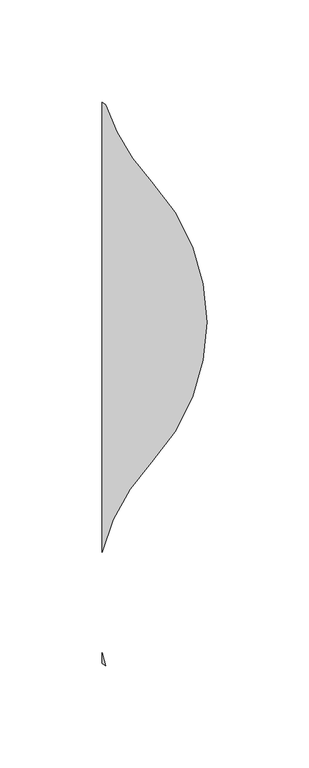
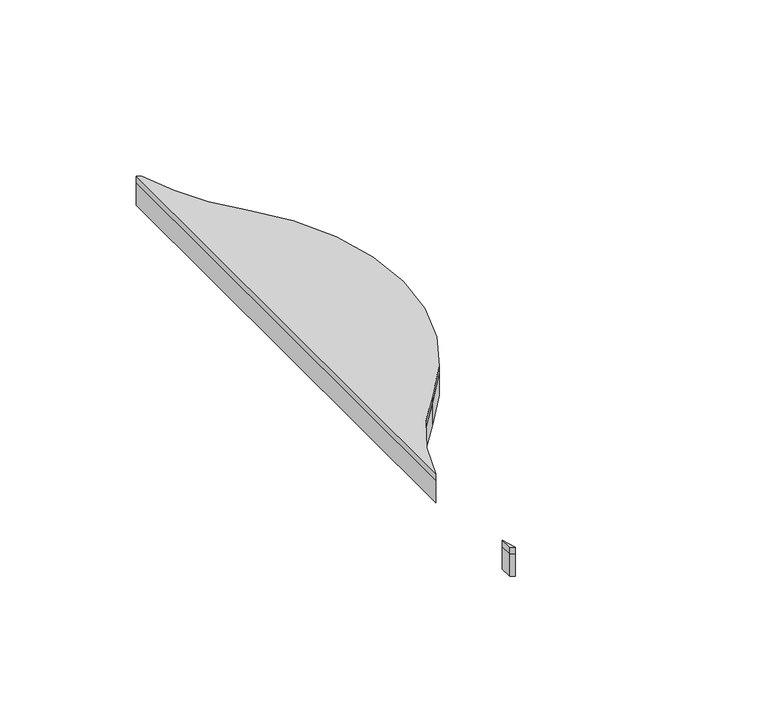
"""IFC4 building model written with IfcOpenShell, lengths in millimetres: proxy geometry, FilzFelt_Fish_Block : Fish Block."""

from ifc_helpers import new_model, si_unit, frame, origin, place, context, project, spatial, polyline, circle_curve, source, transform, mapped, element, save
from ifc_brep_helpers import plane_surface, cylinder_surface, revolved_surface, advanced_brep


def specialty_equipment_dfd8184e(model_context):
    return source(origin(), model_context, "Body", "AdvancedBrep", [
        advanced_brep(
        [(53.5486457, 68.6120133, 10.0210937), (53.5486457, -68.6120133, 10.0210937), (29.4379865, -112.6669015, 10.0210937), (29.4379865, 107.4970534, 10.0210937), (31.2619065, 106.3338576, 10.0210937), (53.5486457, 68.6120133, 12.9976563), (31.2619065, 106.3338576, 12.9976563), (29.4379865, 107.4970534, 12.9976563), (29.4379865, -112.6669015, 12.9976563), (53.5486457, -68.6120133, 12.9976563), (80.7142226, 0.0, 12.9976563)],
        [
            (0, 1, circle_curve(frame((-19.5151403, 0.0, 10.0210937), z_axis=(0.0, 0.0, -1.0), x_axis=(-1.0, 0.0, 0.0)), 100.2293629)),
            (1, 2, circle_curve(frame((126.6124317, -137.2240266, 10.0210937), z_axis=(0.0, 0.0, 1.0), x_axis=(-1.0, 0.0, 0.0)), 100.2293629)),
            (2, 3),
            (3, 4, circle_curve(frame((57.9263497, 150.1559416, 10.0210937), z_axis=(0.0, 0.0, 1.0), x_axis=(-1.0, 0.0, 0.0)), 51.2968574)),
            (4, 0, circle_curve(frame((126.6124317, 137.2240266, 10.0210937), z_axis=(0.0, 0.0, 1.0), x_axis=(-1.0, 0.0, 0.0)), 100.2293629)),
            (5, 6, circle_curve(frame((126.6124317, 137.2240266, 12.9976563), z_axis=(0.0, 0.0, -1.0), x_axis=(-1.0, 0.0, 0.0)), 100.2293629)),
            (6, 7, circle_curve(frame((57.9263497, 150.1559416, 12.9976563), z_axis=(0.0, 0.0, -1.0), x_axis=(-1.0, 0.0, 0.0)), 51.2968574)),
            (7, 8),
            (8, 9, circle_curve(frame((126.6124317, -137.2240266, 12.9976563), z_axis=(0.0, 0.0, -1.0), x_axis=(-1.0, 0.0, 0.0)), 100.2293629)),
            (9, 10, circle_curve(frame((-19.5151403, 0.0, 12.9976563), z_axis=(0.0, 0.0, 1.0), x_axis=(-1.0, 0.0, 0.0)), 100.2293629)),
            (10, 5, circle_curve(frame((-19.5151403, 0.0, 12.9976563), z_axis=(0.0, 0.0, 1.0), x_axis=(-1.0, 0.0, 0.0)), 100.2293629)),
            (0, 5),
            (9, 1),
            (8, 2),
            (6, 4),
            (3, 7),
        ],
        [
            plane_surface(frame((0.0, 0.0, 10.0210937), z_axis=(0.0, 0.0, -1.0), x_axis=(0.0, -1.0, 0.0))),
            plane_surface(frame((0.0, 0.0, 12.9976563), z_axis=(0.0, 0.0, 1.0), x_axis=(0.0, -1.0, 0.0))),
            cylinder_surface(frame((-19.5151403, 0.0, 10.0210937), z_axis=(0.0, 0.0, -1.0), x_axis=(-1.0, 0.0, 0.0)), 100.2293629),
            revolved_surface(polyline([(26.383068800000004, -137.2240266, 12.9976563), (26.383068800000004, -137.2240266, 10.0210937)]), (126.6124317, -137.2240266, 10.0210937), (0.0, 0.0, 1.0)),
            revolved_surface(polyline([(6.629492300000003, 150.1559416, 12.9976563), (6.629492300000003, 150.1559416, 10.0210937)]), (57.9263497, 150.1559416, 10.0210937), (0.0, 0.0, 1.0)),
            revolved_surface(polyline([(26.383068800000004, 137.2240266, 12.9976563), (26.383068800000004, 137.2240266, 10.0210937)]), (126.6124317, 137.2240266, 10.0210937), (0.0, 0.0, 1.0)),
            plane_surface(frame((29.4379865, 168.3338795, 12.9976562), z_axis=(-1.0, 0.0, 0.0), x_axis=(0.0, -1.0, 0.0))),
        ],
        [
            (0, [[1, 2, 3, 4, 5]]),
            (1, [[6, 7, 8, 9, 10, 11]]),
            (2, [[-1, 12, -11, -10, 13]]),
            (3, [[-13, -9, 14, -2]]),
            (4, [[15, -4, 16, -7]]),
            (5, [[-5, -15, -6, -12]]),
            (6, [[-3, -14, -8, -16]]),
        ],
    ),
        advanced_brep(
        [(29.4379865, -161.7811517, 10.0210937), (31.2619065, -168.1141956, 10.0210937), (29.4379865, -166.9509997, 10.0210937), (29.4379865, -166.9509997, 12.9976563), (31.2619065, -168.1141956, 12.9976563), (29.4379865, -161.7811517, 12.9976563)],
        [
            (0, 1, circle_curve(frame((126.6124317, -137.2240266, 10.0210937), z_axis=(0.0, 0.0, 1.0), x_axis=(-1.0, 0.0, 0.0)), 100.2293629)),
            (1, 2, circle_curve(frame((57.9263497, -124.2921115, 10.0210937), z_axis=(0.0, 0.0, -1.0), x_axis=(-1.0, 0.0, 0.0)), 51.2968574)),
            (2, 0),
            (3, 4, circle_curve(frame((57.9263497, -124.2921115, 12.9976563), z_axis=(0.0, 0.0, 1.0), x_axis=(-1.0, 0.0, 0.0)), 51.2968574)),
            (4, 5, circle_curve(frame((126.6124317, -137.2240266, 12.9976563), z_axis=(0.0, 0.0, -1.0), x_axis=(-1.0, 0.0, 0.0)), 100.2293629)),
            (5, 3),
            (4, 1),
            (0, 5),
            (3, 2),
        ],
        [
            plane_surface(frame((0.0, 0.0, 10.0210937), z_axis=(0.0, 0.0, -1.0), x_axis=(0.0, -1.0, 0.0))),
            plane_surface(frame((0.0, 0.0, 12.9976563), z_axis=(0.0, 0.0, 1.0), x_axis=(0.0, -1.0, 0.0))),
            revolved_surface(polyline([(26.383068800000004, -137.2240266, 12.9976563), (26.383068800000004, -137.2240266, 10.0210937)]), (126.6124317, -137.2240266, 10.0210937), (0.0, 0.0, 1.0)),
            cylinder_surface(frame((57.9263497, -124.2921115, 10.0210937), z_axis=(0.0, 0.0, -1.0), x_axis=(-1.0, 0.0, 0.0)), 51.2968574),
            plane_surface(frame((29.4379865, 168.3338795, 12.9976562), z_axis=(-1.0, 0.0, 0.0), x_axis=(0.0, -1.0, 0.0))),
        ],
        [
            (0, [[1, 2, 3]]),
            (1, [[4, 5, 6]]),
            (2, [[7, -1, 8, -5]]),
            (3, [[-7, -4, 9, -2]]),
            (4, [[-3, -9, -6, -8]]),
        ],
    ),
        advanced_brep(
        [(31.2619065, 106.3338576, 0.0), (53.5486457, 68.6120133, 0.0), (80.7142226, 0.0, 0.0), (53.5486457, -68.6120133, 0.0), (29.4379865, -112.6669015, 0.0), (29.4379865, 107.4970534, 0.0), (53.5486457, -68.6120133, 10.0210937), (53.5486457, 68.6120133, 10.0210937), (31.2619065, 106.3338576, 10.0210937), (29.4379865, 107.4970534, 10.0210937), (29.4379865, -112.6669015, 10.0210937)],
        [
            (0, 1, circle_curve(frame((126.6124317, 137.2240266, 0.0), z_axis=(0.0, 0.0, 1.0), x_axis=(-1.0, 0.0, 0.0)), 100.2293629)),
            (1, 2, circle_curve(frame((-19.5151403, 0.0, 0.0), z_axis=(0.0, 0.0, -1.0), x_axis=(-1.0, 0.0, 0.0)), 100.2293629)),
            (2, 3, circle_curve(frame((-19.5151403, 0.0, 0.0), z_axis=(0.0, 0.0, -1.0), x_axis=(-1.0, 0.0, 0.0)), 100.2293629)),
            (3, 4, circle_curve(frame((126.6124317, -137.2240266, 0.0), z_axis=(0.0, 0.0, 1.0), x_axis=(-1.0, 0.0, 0.0)), 100.2293629)),
            (4, 5),
            (5, 0, circle_curve(frame((57.9263497, 150.1559416, 0.0), z_axis=(0.0, 0.0, 1.0), x_axis=(-1.0, 0.0, 0.0)), 51.2968574)),
            (6, 7, circle_curve(frame((-19.5151403, 0.0, 10.0210937), z_axis=(0.0, 0.0, 1.0), x_axis=(-1.0, 0.0, 0.0)), 100.2293629)),
            (7, 8, circle_curve(frame((126.6124317, 137.2240266, 10.0210937), z_axis=(0.0, 0.0, -1.0), x_axis=(-1.0, 0.0, 0.0)), 100.2293629)),
            (8, 9, circle_curve(frame((57.9263497, 150.1559416, 10.0210937), z_axis=(0.0, 0.0, -1.0), x_axis=(-1.0, 0.0, 0.0)), 51.2968574)),
            (9, 10),
            (10, 6, circle_curve(frame((126.6124317, -137.2240266, 10.0210937), z_axis=(0.0, 0.0, -1.0), x_axis=(-1.0, 0.0, 0.0)), 100.2293629)),
            (8, 0),
            (5, 9),
            (7, 1),
            (6, 3),
            (10, 4),
        ],
        [
            plane_surface(frame((0.0, 0.0, 0.0), z_axis=(0.0, 0.0, -1.0), x_axis=(0.0, -1.0, 0.0))),
            plane_surface(frame((0.0, 0.0, 10.0210937), z_axis=(0.0, 0.0, 1.0), x_axis=(0.0, -1.0, 0.0))),
            revolved_surface(polyline([(6.629492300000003, 150.1559416, 10.0210937), (6.629492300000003, 150.1559416, 0.0)]), (57.9263497, 150.1559416, 0.0), (0.0, 0.0, 1.0)),
            revolved_surface(polyline([(26.383068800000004, 137.2240266, 10.0210937), (26.383068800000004, 137.2240266, 0.0)]), (126.6124317, 137.2240266, 0.0), (0.0, 0.0, 1.0)),
            cylinder_surface(frame((-19.5151403, 0.0, 0.0), z_axis=(0.0, 0.0, -1.0), x_axis=(-1.0, 0.0, 0.0)), 100.2293629),
            revolved_surface(polyline([(26.383068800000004, -137.2240266, 10.0210937), (26.383068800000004, -137.2240266, 0.0)]), (126.6124317, -137.2240266, 0.0), (0.0, 0.0, 1.0)),
            plane_surface(frame((29.4379865, 168.3338795, 12.9976562), z_axis=(-1.0, 0.0, 0.0), x_axis=(0.0, -1.0, 0.0))),
        ],
        [
            (0, [[1, 2, 3, 4, 5, 6]]),
            (1, [[7, 8, 9, 10, 11]]),
            (2, [[12, -6, 13, -9]]),
            (3, [[-1, -12, -8, 14]]),
            (4, [[-7, 15, -3, -2, -14]]),
            (5, [[-15, -11, 16, -4]]),
            (6, [[-5, -16, -10, -13]]),
        ],
    ),
        advanced_brep(
        [(31.2619065, -168.1141956, 0.0), (29.4379865, -166.9509997, 0.0), (29.4379865, -161.7811517, 0.0), (31.2619065, -168.1141956, 10.0210937), (29.4379865, -161.7811517, 10.0210937), (29.4379865, -166.9509997, 10.0210937)],
        [
            (0, 1, circle_curve(frame((57.9263497, -124.2921115, 0.0), z_axis=(0.0, 0.0, -1.0), x_axis=(-1.0, 0.0, 0.0)), 51.2968574)),
            (1, 2),
            (2, 0, circle_curve(frame((126.6124317, -137.2240266, 0.0), z_axis=(0.0, 0.0, 1.0), x_axis=(-1.0, 0.0, 0.0)), 100.2293629)),
            (3, 4, circle_curve(frame((126.6124317, -137.2240266, 10.0210937), z_axis=(0.0, 0.0, -1.0), x_axis=(-1.0, 0.0, 0.0)), 100.2293629)),
            (4, 5),
            (5, 3, circle_curve(frame((57.9263497, -124.2921115, 10.0210937), z_axis=(0.0, 0.0, 1.0), x_axis=(-1.0, 0.0, 0.0)), 51.2968574)),
            (0, 3),
            (5, 1),
            (2, 4),
        ],
        [
            plane_surface(frame((0.0, 0.0, 0.0), z_axis=(0.0, 0.0, -1.0), x_axis=(0.0, -1.0, 0.0))),
            plane_surface(frame((0.0, 0.0, 10.0210937), z_axis=(0.0, 0.0, 1.0), x_axis=(0.0, -1.0, 0.0))),
            cylinder_surface(frame((57.9263497, -124.2921115, 0.0), z_axis=(0.0, 0.0, -1.0), x_axis=(-1.0, 0.0, 0.0)), 51.2968574),
            revolved_surface(polyline([(26.383068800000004, -137.2240266, 10.0210937), (26.383068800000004, -137.2240266, 0.0)]), (126.6124317, -137.2240266, 0.0), (0.0, 0.0, 1.0)),
            plane_surface(frame((29.4379865, 168.3338795, 12.9976562), z_axis=(-1.0, 0.0, 0.0), x_axis=(0.0, -1.0, 0.0))),
        ],
        [
            (0, [[1, 2, 3]]),
            (1, [[4, 5, 6]]),
            (2, [[7, -6, 8, -1]]),
            (3, [[-7, -3, 9, -4]]),
            (4, [[-2, -8, -5, -9]]),
        ],
    ),
    ])


if __name__ == "__main__":
    model = new_model("IFC4")
    model_context = context("Model", 3, world=origin())
    ifc_project = project(units=[si_unit("LENGTHUNIT", "METRE", prefix="MILLI")], contexts=[model_context])
    site = spatial("IfcSite", under=ifc_project)
    building = spatial("IfcBuilding", under=site)
    placement = place(None, origin())
    specialty_equipment_shape = specialty_equipment_dfd8184e(model_context)
    element("IfcBuildingElementProxy", 1, Name="FilzFelt_Fish_Block : Fish Block", ObjectType="FilzFelt_Fish_Block : Fish Block", at=placement, inside=building, context=model_context, shape_type="MappedRepresentation", body=[
        mapped(specialty_equipment_shape, transform((0.0, 0.0, 0.0), x_axis=(1.0, 0.0, 0.0), y_axis=(0.0, 1.0, 0.0), z_axis=(0.0, 0.0, 1.0))),
    ])
    save(model, "model.ifc")
